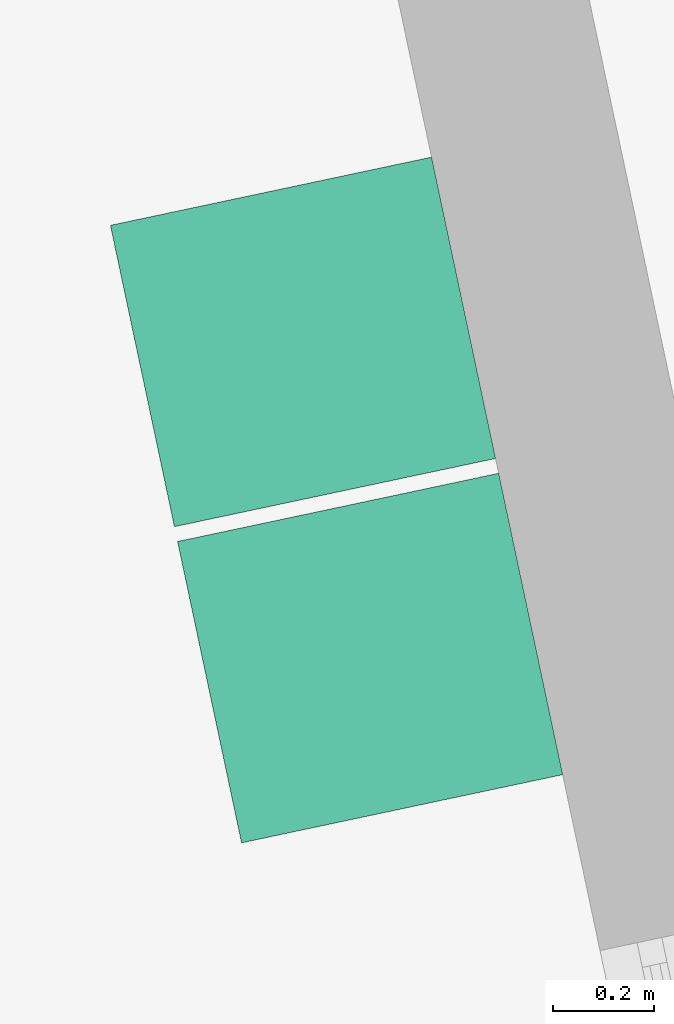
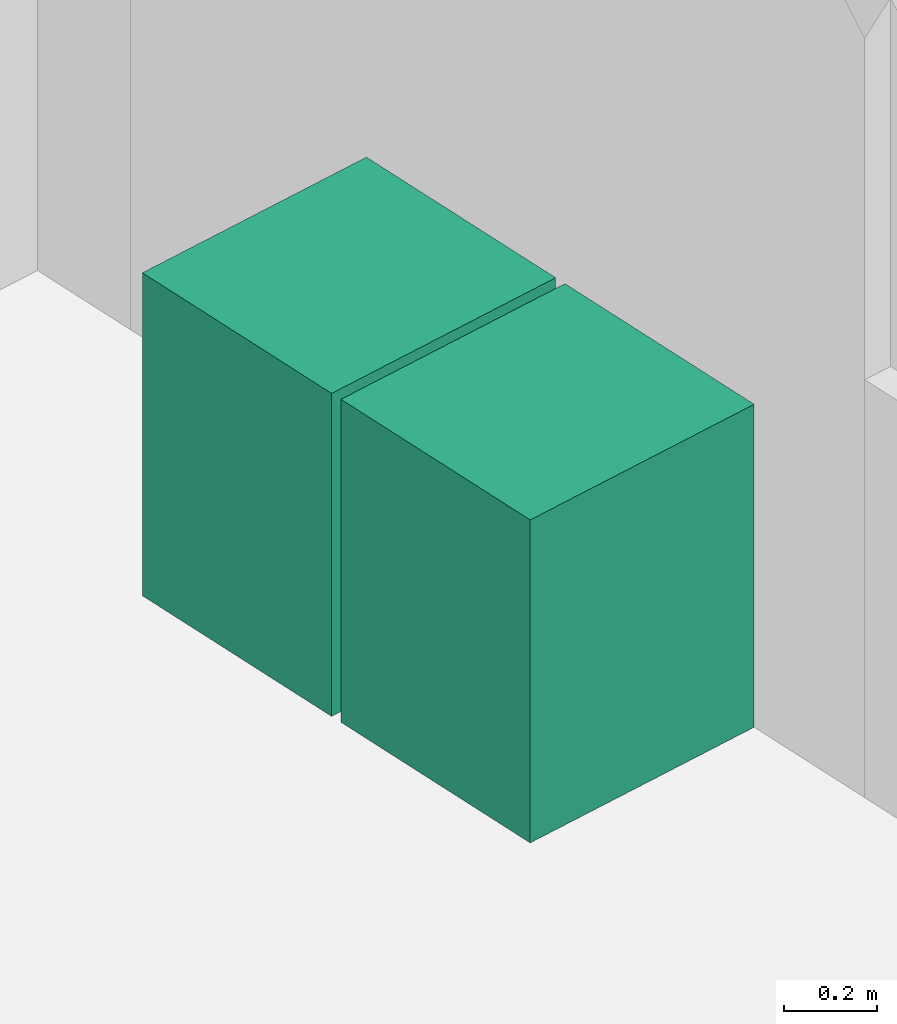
# One storey, part 12 of 17: 2 flow terminals.
"""IFC2X3 building model written with IfcOpenShell, lengths in centimetres."""

from ifc_helpers import new_model, entity, si_unit, converted_unit, derived_unit, direction, frame, origin, origin_2d_with_axis, place, context, subcontext, project, spatial, rectangle, extrude, source, transform, mapped, material, type_object, type_shapes, element, save


model = new_model("IFC2X3")

# Units and contexts
model_context = context("Model", 3, precision=0.001, world=origin(), true_north=direction((6.12303176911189e-17, 1.0)))
body_context = subcontext(model_context, "Body", "Model", "MODEL_VIEW")
ifc_project = project(units=[si_unit("LENGTHUNIT", "METRE", prefix="CENTI"), si_unit("AREAUNIT", "SQUARE_METRE"), si_unit("VOLUMEUNIT", "CUBIC_METRE"), converted_unit("PLANEANGLEUNIT", "DEGREE", entity("IfcRatioMeasure", 0.0174532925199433), si_unit("PLANEANGLEUNIT", "RADIAN"), dimensions=[0, 0, 0, 0, 0, 0, 0]), si_unit("MASSUNIT", "GRAM", prefix="KILO"), derived_unit("MASSDENSITYUNIT", [(si_unit("MASSUNIT", "GRAM", prefix="KILO"), 1), (si_unit("LENGTHUNIT", "METRE"), -3)]), derived_unit("IONCONCENTRATIONUNIT", [(si_unit("MASSUNIT", "GRAM", prefix="KILO"), 1), (si_unit("LENGTHUNIT", "METRE"), -3)]), derived_unit("MOMENTOFINERTIAUNIT", [(si_unit("LENGTHUNIT", "METRE"), 4)]), si_unit("TIMEUNIT", "SECOND"), si_unit("FREQUENCYUNIT", "HERTZ"), si_unit("THERMODYNAMICTEMPERATUREUNIT", "DEGREE_CELSIUS"), derived_unit("THERMALTRANSMITTANCEUNIT", [(si_unit("MASSUNIT", "GRAM", prefix="KILO"), 1), (si_unit("THERMODYNAMICTEMPERATUREUNIT", "KELVIN"), -1), (si_unit("TIMEUNIT", "SECOND"), -3)]), derived_unit("THERMALCONDUCTANCEUNIT", [(si_unit("MASSUNIT", "GRAM", prefix="KILO"), 1), (si_unit("THERMODYNAMICTEMPERATUREUNIT", "KELVIN"), -1), (si_unit("TIMEUNIT", "SECOND"), -3), (si_unit("LENGTHUNIT", "METRE"), 1)]), derived_unit("VOLUMETRICFLOWRATEUNIT", [(si_unit("LENGTHUNIT", "METRE"), 3), (si_unit("TIMEUNIT", "SECOND"), -1)]), derived_unit("MASSFLOWRATEUNIT", [(si_unit("MASSUNIT", "GRAM", prefix="KILO"), 1), (si_unit("TIMEUNIT", "SECOND"), -1)]), derived_unit("ROTATIONALFREQUENCYUNIT", [(si_unit("TIMEUNIT", "SECOND"), -1)]), si_unit("ELECTRICCURRENTUNIT", "AMPERE"), si_unit("ELECTRICVOLTAGEUNIT", "VOLT"), si_unit("POWERUNIT", "WATT"), si_unit("FORCEUNIT", "NEWTON", prefix="KILO"), si_unit("ILLUMINANCEUNIT", "LUX"), si_unit("LUMINOUSFLUXUNIT", "LUMEN"), si_unit("LUMINOUSINTENSITYUNIT", "CANDELA"), derived_unit("USERDEFINED", [(si_unit("MASSUNIT", "GRAM", prefix="KILO"), -1), (si_unit("LENGTHUNIT", "METRE"), -2), (si_unit("TIMEUNIT", "SECOND"), 3), (si_unit("LUMINOUSFLUXUNIT", "LUMEN"), 1)]), derived_unit("USERDEFINED", [(si_unit("MASSUNIT", "GRAM", prefix="KILO"), 1), (si_unit("TIMEUNIT", "SECOND"), -3), (si_unit("LENGTHUNIT", "METRE"), 3), (si_unit("ELECTRICCURRENTUNIT", "AMPERE"), -2)]), derived_unit("SOUNDPOWERUNIT", [(si_unit("MASSUNIT", "GRAM", prefix="KILO"), 1), (si_unit("TIMEUNIT", "SECOND"), -3), (si_unit("LENGTHUNIT", "METRE"), 2)]), derived_unit("SOUNDPRESSUREUNIT", [(si_unit("MASSUNIT", "GRAM", prefix="KILO"), 1), (si_unit("LENGTHUNIT", "METRE"), -1), (si_unit("TIMEUNIT", "SECOND"), -2)]), derived_unit("LINEARVELOCITYUNIT", [(si_unit("LENGTHUNIT", "METRE"), 1), (si_unit("TIMEUNIT", "SECOND"), -1)]), si_unit("PRESSUREUNIT", "PASCAL"), derived_unit("USERDEFINED", [(si_unit("MASSUNIT", "GRAM", prefix="KILO"), 1), (si_unit("LENGTHUNIT", "METRE"), -2), (si_unit("TIMEUNIT", "SECOND"), -2)]), derived_unit("LINEARFORCEUNIT", [(si_unit("MASSUNIT", "GRAM", prefix="KILO"), 1), (si_unit("TIMEUNIT", "SECOND"), -2)]), derived_unit("PLANARFORCEUNIT", [(si_unit("MASSUNIT", "GRAM", prefix="KILO"), 1), (si_unit("LENGTHUNIT", "METRE"), -1), (si_unit("TIMEUNIT", "SECOND"), -2)]), derived_unit("SPECIFICHEATCAPACITYUNIT", [(si_unit("THERMODYNAMICTEMPERATUREUNIT", "KELVIN"), -1), (si_unit("LENGTHUNIT", "METRE"), 2), (si_unit("TIMEUNIT", "SECOND"), -2)]), derived_unit("HEATINGVALUEUNIT", [(si_unit("LENGTHUNIT", "METRE"), 2), (si_unit("TIMEUNIT", "SECOND"), -2)]), derived_unit("VAPORPERMEABILITYUNIT", [(si_unit("LENGTHUNIT", "METRE"), -1), (si_unit("TIMEUNIT", "SECOND"), 1)]), derived_unit("DYNAMICVISCOSITYUNIT", [(si_unit("MASSUNIT", "GRAM", prefix="KILO"), 1), (si_unit("TIMEUNIT", "SECOND"), -1), (si_unit("LENGTHUNIT", "METRE"), -1)]), derived_unit("THERMALEXPANSIONCOEFFICIENTUNIT", [(si_unit("THERMODYNAMICTEMPERATUREUNIT", "KELVIN"), -1)]), derived_unit("MODULUSOFELASTICITYUNIT", [(si_unit("MASSUNIT", "GRAM", prefix="KILO"), 1), (si_unit("LENGTHUNIT", "METRE"), -1), (si_unit("TIMEUNIT", "SECOND"), -2)]), derived_unit("ISOTHERMALMOISTURECAPACITYUNIT", [(si_unit("LENGTHUNIT", "METRE"), 3), (si_unit("MASSUNIT", "GRAM", prefix="KILO"), -1)]), derived_unit("MOISTUREDIFFUSIVITYUNIT", [(si_unit("TIMEUNIT", "SECOND"), -1), (si_unit("LENGTHUNIT", "METRE"), 2)])], contexts=[model_context])

# Site, building, storey, space
site_placement = place(None, frame((14083.8920177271, -6853.25409548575, 6900.0), z_axis=(0.0, 0.0, 1.0), x_axis=(0.978188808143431, 0.207717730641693, 0.0)))
site = spatial("IfcSite", under=ifc_project, at=site_placement, Name="Surface", CompositionType="ELEMENT")
building_placement = place(site_placement, origin())
building = spatial("IfcBuilding", under=site, at=building_placement, CompositionType="ELEMENT")
storey_placement = place(building_placement, origin())
storey = spatial("IfcBuildingStorey", under=building, at=storey_placement, Name="_Rez de chaussée Séjour", CompositionType="ELEMENT", Elevation=2.07727662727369e-10)
space_placement = place(storey_placement, origin())
space = spatial("IfcSpace", under=storey, at=space_placement, Name="jjj", CompositionType="ELEMENT", InteriorOrExteriorSpace="INTERNAL")

# Flow terminals
ifc_material = material(Name="MOBILIER- Cuisine")
distribution_element_type_1 = type_object("IfcDistributionElementType", Name="AS- ELEMENT CUISINE:60 x p65cm_ LV", material=ifc_material)
shared_shape_1 = source(origin(), body_context, "Body", "SweptSolid", [
    extrude(rectangle(XDim=61.0, YDim=65.0, at=origin_2d_with_axis()), frame((33.1689696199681, 51.0, 0.0), z_axis=(0.0, 0.0, 1.0), x_axis=(-1.0, 0.0, 0.0)), (0.0, 0.0, 1.0), 85.0000000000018),
])
type_shapes(distribution_element_type_1, [shared_shape_1])
flow_terminal_1_placement = place(space_placement, frame((-5969.31321908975, 14956.9983750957, 0.0), z_axis=(0.0, 0.0, 1.0), x_axis=(0.0, 1.0, 0.0)))
element("IfcFlowTerminal", 1, at=flow_terminal_1_placement, inside=space, type_object=distribution_element_type_1, material=ifc_material, Name="AS- ELEMENT CUISINE:60 x p65cm_ LV", ObjectType="AS- ELEMENT CUISINE:60 x p65cm_ LV", context=body_context, shape_type="MappedRepresentation", body=[
    mapped(shared_shape_1, transform((0.0, 0.0, 0.0), scale=1.0)),
])
distribution_element_type_2 = type_object("IfcDistributionElementType", Name="AS- ELEMENT CUISINE:60 x p65cm_R", material=ifc_material)
shared_shape_2 = source(origin(), body_context, "Body", "SweptSolid", [
    extrude(rectangle(XDim=61.0, YDim=65.0, at=origin_2d_with_axis()), frame((33.1689696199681, 51.0, 0.0), z_axis=(0.0, 0.0, 1.0), x_axis=(-1.0, 0.0, 0.0)), (0.0, 0.0, 1.0), 85.0000000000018),
])
type_shapes(distribution_element_type_2, [shared_shape_2])
flow_terminal_2_placement = place(space_placement, frame((-5969.31321908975, 15020.9983750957, 0.0), z_axis=(0.0, 0.0, 1.0), x_axis=(0.0, 1.0, 0.0)))
element("IfcFlowTerminal", 2, at=flow_terminal_2_placement, inside=space, type_object=distribution_element_type_2, material=ifc_material, Name="AS- ELEMENT CUISINE:60 x p65cm_R", ObjectType="AS- ELEMENT CUISINE:60 x p65cm_R", context=body_context, shape_type="MappedRepresentation", body=[
    mapped(shared_shape_2, transform((0.0, 0.0, 0.0), scale=1.0)),
])

save(model, "model.ifc")
